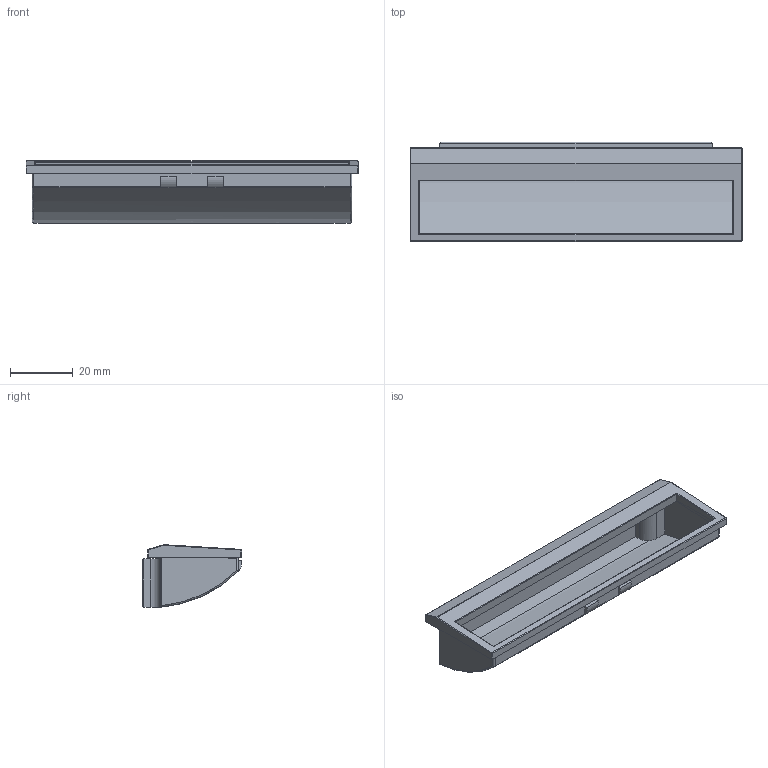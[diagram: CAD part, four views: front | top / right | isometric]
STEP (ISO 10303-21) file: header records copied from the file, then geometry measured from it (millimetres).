
FILE_DESCRIPTION (( 'STEP AP203' ), '1' );
FILE_NAME ('HP-004-白.STEP', '2015-11-18T07:36:57', ( '' ), ( '' ), 'SwSTEP 2.0', 'SolidWorks 2014', '' );
FILE_SCHEMA (( 'CONFIG_CONTROL_DESIGN' ));
Length unit declared in the file: millimetre
Products named in the file (1): HP-004-白
Bounding box: 106 x 31.76 x 20 mm (x, y, z)
Volume: 9437.7 mm3; surface area: 19021.2 mm2
Topology: 1 solids, 1 shells, 101 faces, 242 edges, 140 vertices
Faces by surface type: plane 47, cylinder 38, sphere 12, torus 3, bspline 1
Entity records: 2942 total; most frequent: CARTESIAN_POINT 574, DIRECTION 488, ORIENTED_EDGE 468, EDGE_CURVE 234, AXIS2_PLACEMENT_3D 169, LINE 150, VECTOR 150, VERTEX_POINT 140
